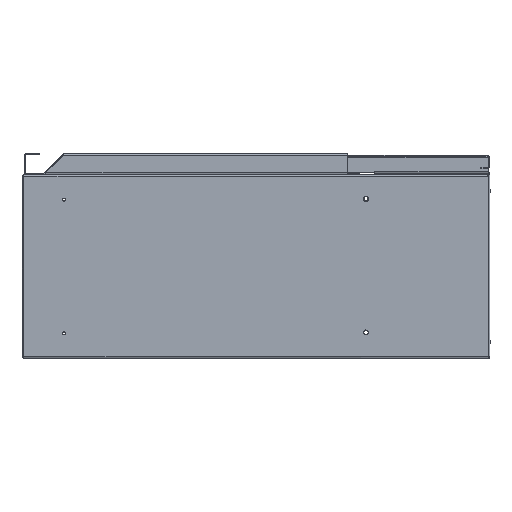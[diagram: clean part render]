
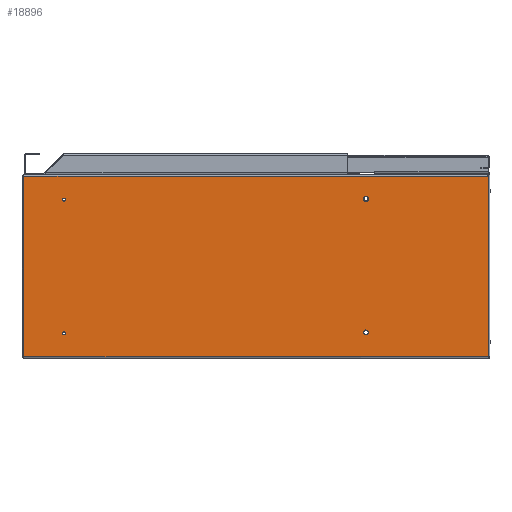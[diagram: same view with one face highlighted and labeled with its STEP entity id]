
A CAD part, left-side view. The second image highlights one B-rep face of the part: STEP entity #18896.
In plain terms, the highlighted planar face has unit normal (-1, 0, 0).
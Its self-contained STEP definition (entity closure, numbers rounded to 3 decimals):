
#152 = EDGE_CURVE ( 'NONE', #12843, #7851, #5573, .T. ) ;
#833 = VERTEX_POINT ( 'NONE', #60068 ) ;
#1085 = CARTESIAN_POINT ( 'NONE',  ( -175., 559., -49.397 ) ) ;
#1305 = CIRCLE ( 'NONE', #62082, 3. ) ;
#1667 = AXIS2_PLACEMENT_3D ( 'NONE', #38277, #8356, #23993 ) ;
#1914 = EDGE_CURVE ( 'NONE', #44590, #20942, #1305, .T. ) ;
#3076 = FACE_BOUND ( 'NONE', #31595, .T. ) ;
#3430 = CARTESIAN_POINT ( 'NONE',  ( -175., 1.5, -47.397 ) ) ;
#3956 = CARTESIAN_POINT ( 'NONE',  ( -175., 509., -237.397 ) ) ;
#4438 = LINE ( 'NONE', #35028, #48794 ) ;
#4635 = CIRCLE ( 'NONE', #20875, 1.65 ) ;
#4936 = DIRECTION ( 'NONE',  ( 0., -1., 0. ) ) ;
#5235 = DIRECTION ( 'NONE',  ( 1., 0., 0. ) ) ;
#5573 = CIRCLE ( 'NONE', #43552, 1.65 ) ;
#5812 = ORIENTED_EDGE ( 'NONE', *, *, #44138, .T. ) ;
#7851 = VERTEX_POINT ( 'NONE', #22748 ) ;
#8356 = DIRECTION ( 'NONE',  ( 1., 0., 0. ) ) ;
#9268 = DIRECTION ( 'NONE',  ( 0., 0., -1. ) ) ;
#9351 = LINE ( 'NONE', #67108, #50719 ) ;
#9659 = DIRECTION ( 'NONE',  ( 0., 0., -1. ) ) ;
#9788 = ORIENTED_EDGE ( 'NONE', *, *, #1914, .T. ) ;
#9899 = EDGE_CURVE ( 'NONE', #64897, #10116, #4438, .T. ) ;
#10077 = VERTEX_POINT ( 'NONE', #32265 ) ;
#10116 = VERTEX_POINT ( 'NONE', #49574 ) ;
#12843 = VERTEX_POINT ( 'NONE', #39505 ) ;
#13063 = VERTEX_POINT ( 'NONE', #36399 ) ;
#13088 = EDGE_LOOP ( 'NONE', ( #55297, #35422, #31428, #43063, #29629, #25268 ) ) ;
#13260 = CARTESIAN_POINT ( 'NONE',  ( -175., 559., -47.397 ) ) ;
#13934 = CARTESIAN_POINT ( 'NONE',  ( -175., 509., -75.747 ) ) ;
#15625 = CARTESIAN_POINT ( 'NONE',  ( -175., 557., -49.397 ) ) ;
#16021 = EDGE_CURVE ( 'NONE', #10116, #26199, #9351, .T. ) ;
#16380 = CARTESIAN_POINT ( 'NONE',  ( -175., 147.5, -79.397 ) ) ;
#17868 = CARTESIAN_POINT ( 'NONE',  ( -175., 147.5, -73.397 ) ) ;
#18334 = DIRECTION ( 'NONE',  ( 1., 0., 0. ) ) ;
#18584 = CIRCLE ( 'NONE', #56564, 1.65 ) ;
#18896 = ADVANCED_FACE ( 'NONE', ( #25139, #44866, #49621, #3076, #29558 ), #45867, .T. ) ;
#18899 = VERTEX_POINT ( 'NONE', #13934 ) ;
#19233 = CARTESIAN_POINT ( 'NONE',  ( -175., 147.5, -233.397 ) ) ;
#19265 = AXIS2_PLACEMENT_3D ( 'NONE', #30344, #35768, #45645 ) ;
#20294 = ORIENTED_EDGE ( 'NONE', *, *, #36988, .T. ) ;
#20875 = AXIS2_PLACEMENT_3D ( 'NONE', #54273, #64823, #50524 ) ;
#20942 = VERTEX_POINT ( 'NONE', #17868 ) ;
#21111 = EDGE_CURVE ( 'NONE', #18899, #13063, #18584, .T. ) ;
#22412 = CIRCLE ( 'NONE', #33262, 3. ) ;
#22431 = CARTESIAN_POINT ( 'NONE',  ( -175., 147.5, -76.397 ) ) ;
#22471 = AXIS2_PLACEMENT_3D ( 'NONE', #3956, #65812, #61695 ) ;
#22748 = CARTESIAN_POINT ( 'NONE',  ( -175., 509., -239.047 ) ) ;
#22942 = ORIENTED_EDGE ( 'NONE', *, *, #49495, .T. ) ;
#23487 = ORIENTED_EDGE ( 'NONE', *, *, #38031, .T. ) ;
#23993 = DIRECTION ( 'NONE',  ( 0., 0., 1. ) ) ;
#24242 = CARTESIAN_POINT ( 'NONE',  ( -175., 509., -77.397 ) ) ;
#24486 = CIRCLE ( 'NONE', #1667, 3. ) ;
#24504 = EDGE_CURVE ( 'NONE', #26199, #33142, #36026, .T. ) ;
#25139 = FACE_OUTER_BOUND ( 'NONE', #13088, .T. ) ;
#25268 = ORIENTED_EDGE ( 'NONE', *, *, #26913, .T. ) ;
#25746 = CIRCLE ( 'NONE', #19265, 3. ) ;
#26099 = VECTOR ( 'NONE', #48826, 1000. ) ;
#26199 = VERTEX_POINT ( 'NONE', #36378 ) ;
#26796 = CARTESIAN_POINT ( 'NONE',  ( -175., 559., -47.397 ) ) ;
#26913 = EDGE_CURVE ( 'NONE', #34792, #10077, #53590, .T. ) ;
#28107 = CARTESIAN_POINT ( 'NONE',  ( -175., 1.5, -47.397 ) ) ;
#28834 = EDGE_CURVE ( 'NONE', #33142, #34792, #67258, .T. ) ;
#28942 = EDGE_LOOP ( 'NONE', ( #5812, #9788 ) ) ;
#29558 = FACE_BOUND ( 'NONE', #61368, .T. ) ;
#29629 = ORIENTED_EDGE ( 'NONE', *, *, #28834, .T. ) ;
#29822 = VERTEX_POINT ( 'NONE', #19233 ) ;
#30344 = CARTESIAN_POINT ( 'NONE',  ( -175., 147.5, -76.397 ) ) ;
#31428 = ORIENTED_EDGE ( 'NONE', *, *, #16021, .T. ) ;
#31595 = EDGE_LOOP ( 'NONE', ( #20294, #50325 ) ) ;
#31720 = CARTESIAN_POINT ( 'NONE',  ( -175., 509., -237.397 ) ) ;
#32265 = CARTESIAN_POINT ( 'NONE',  ( -175., 1.5, -49.397 ) ) ;
#33142 = VERTEX_POINT ( 'NONE', #35720 ) ;
#33262 = AXIS2_PLACEMENT_3D ( 'NONE', #41372, #57317, #35254 ) ;
#33988 = DIRECTION ( 'NONE',  ( -1., 0., 0. ) ) ;
#34792 = VERTEX_POINT ( 'NONE', #3430 ) ;
#35028 = CARTESIAN_POINT ( 'NONE',  ( -175., 557., -47.397 ) ) ;
#35254 = DIRECTION ( 'NONE',  ( 0., 0., 1. ) ) ;
#35422 = ORIENTED_EDGE ( 'NONE', *, *, #9899, .T. ) ;
#35540 = EDGE_CURVE ( 'NONE', #833, #29822, #24486, .T. ) ;
#35720 = CARTESIAN_POINT ( 'NONE',  ( -175., 1., -47.397 ) ) ;
#35768 = DIRECTION ( 'NONE',  ( 1., 0., 0. ) ) ;
#36026 = LINE ( 'NONE', #66643, #49332 ) ;
#36378 = CARTESIAN_POINT ( 'NONE',  ( -175., 1., -265.397 ) ) ;
#36399 = CARTESIAN_POINT ( 'NONE',  ( -175., 509., -79.047 ) ) ;
#36988 = EDGE_CURVE ( 'NONE', #7851, #12843, #51758, .T. ) ;
#38031 = EDGE_CURVE ( 'NONE', #13063, #18899, #4635, .T. ) ;
#38041 = DIRECTION ( 'NONE',  ( 0., 0., 1. ) ) ;
#38277 = CARTESIAN_POINT ( 'NONE',  ( -175., 147.5, -236.397 ) ) ;
#39505 = CARTESIAN_POINT ( 'NONE',  ( -175., 509., -235.747 ) ) ;
#41148 = DIRECTION ( 'NONE',  ( 0., 0., -1. ) ) ;
#41159 = DIRECTION ( 'NONE',  ( 0., 0., 1. ) ) ;
#41372 = CARTESIAN_POINT ( 'NONE',  ( -175., 147.5, -236.397 ) ) ;
#42121 = AXIS2_PLACEMENT_3D ( 'NONE', #13260, #33988, #66598 ) ;
#42239 = ORIENTED_EDGE ( 'NONE', *, *, #35540, .T. ) ;
#43063 = ORIENTED_EDGE ( 'NONE', *, *, #24504, .T. ) ;
#43552 = AXIS2_PLACEMENT_3D ( 'NONE', #31720, #5235, #9659 ) ;
#44138 = EDGE_CURVE ( 'NONE', #20942, #44590, #25746, .T. ) ;
#44569 = EDGE_CURVE ( 'NONE', #10077, #64897, #49901, .T. ) ;
#44590 = VERTEX_POINT ( 'NONE', #16380 ) ;
#44866 = FACE_BOUND ( 'NONE', #65892, .T. ) ;
#45645 = DIRECTION ( 'NONE',  ( 0., 0., 1. ) ) ;
#45867 = PLANE ( 'NONE',  #42121 ) ;
#47540 = VECTOR ( 'NONE', #59756, 1000. ) ;
#48794 = VECTOR ( 'NONE', #41148, 1000. ) ;
#48826 = DIRECTION ( 'NONE',  ( 0., 0., -1. ) ) ;
#49332 = VECTOR ( 'NONE', #41159, 1000. ) ;
#49495 = EDGE_CURVE ( 'NONE', #29822, #833, #22412, .T. ) ;
#49574 = CARTESIAN_POINT ( 'NONE',  ( -175., 557., -265.397 ) ) ;
#49621 = FACE_BOUND ( 'NONE', #28942, .T. ) ;
#49901 = LINE ( 'NONE', #1085, #47540 ) ;
#50325 = ORIENTED_EDGE ( 'NONE', *, *, #152, .T. ) ;
#50524 = DIRECTION ( 'NONE',  ( 0., 0., -1. ) ) ;
#50719 = VECTOR ( 'NONE', #4936, 1000. ) ;
#51758 = CIRCLE ( 'NONE', #22471, 1.65 ) ;
#52282 = DIRECTION ( 'NONE',  ( 0., 1., 0. ) ) ;
#52330 = ORIENTED_EDGE ( 'NONE', *, *, #21111, .T. ) ;
#53590 = LINE ( 'NONE', #28107, #26099 ) ;
#54273 = CARTESIAN_POINT ( 'NONE',  ( -175., 509., -77.397 ) ) ;
#55297 = ORIENTED_EDGE ( 'NONE', *, *, #44569, .T. ) ;
#56564 = AXIS2_PLACEMENT_3D ( 'NONE', #24242, #56824, #9268 ) ;
#56824 = DIRECTION ( 'NONE',  ( 1., 0., 0. ) ) ;
#57317 = DIRECTION ( 'NONE',  ( 1., 0., 0. ) ) ;
#59756 = DIRECTION ( 'NONE',  ( 0., 1., 0. ) ) ;
#60068 = CARTESIAN_POINT ( 'NONE',  ( -175., 147.5, -239.397 ) ) ;
#61368 = EDGE_LOOP ( 'NONE', ( #23487, #52330 ) ) ;
#61695 = DIRECTION ( 'NONE',  ( 0., 0., -1. ) ) ;
#62082 = AXIS2_PLACEMENT_3D ( 'NONE', #22431, #18334, #38041 ) ;
#64823 = DIRECTION ( 'NONE',  ( 1., 0., 0. ) ) ;
#64897 = VERTEX_POINT ( 'NONE', #15625 ) ;
#65093 = VECTOR ( 'NONE', #52282, 1000. ) ;
#65812 = DIRECTION ( 'NONE',  ( 1., 0., 0. ) ) ;
#65892 = EDGE_LOOP ( 'NONE', ( #22942, #42239 ) ) ;
#66598 = DIRECTION ( 'NONE',  ( 0., 0., 1. ) ) ;
#66643 = CARTESIAN_POINT ( 'NONE',  ( -175., 1., -47.397 ) ) ;
#67108 = CARTESIAN_POINT ( 'NONE',  ( -175., 559., -265.397 ) ) ;
#67258 = LINE ( 'NONE', #26796, #65093 ) ;
